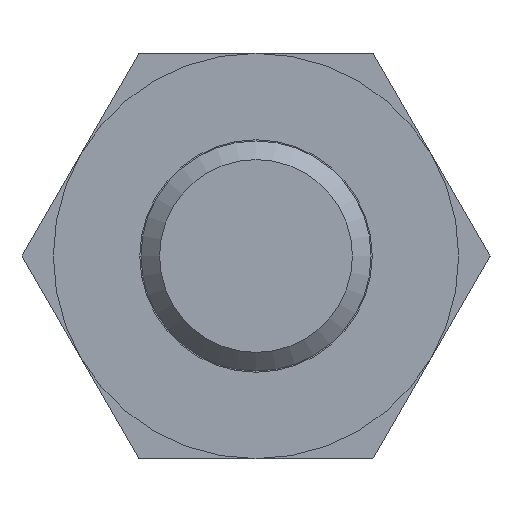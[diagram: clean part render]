
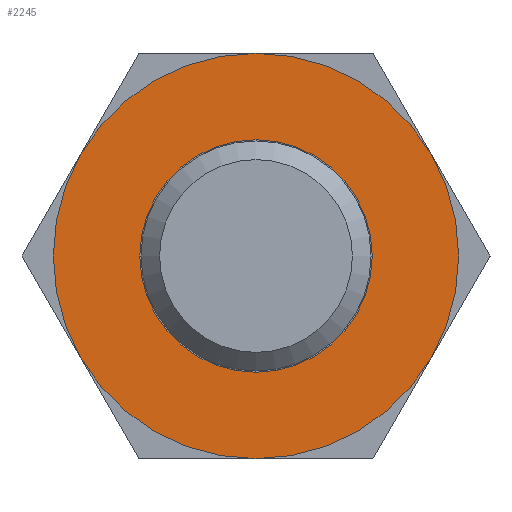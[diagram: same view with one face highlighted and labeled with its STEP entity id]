
A CAD part, left-side view. The second image highlights one B-rep face of the part: STEP entity #2245.
In plain terms, the highlighted planar face has unit normal (-1, 0, 0).
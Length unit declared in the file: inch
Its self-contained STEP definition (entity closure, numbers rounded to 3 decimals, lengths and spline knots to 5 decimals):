
#430=FACE_BOUND('',#839,.T.);
#612=FACE_OUTER_BOUND('',#838,.T.);
#838=EDGE_LOOP('',(#1815));
#839=EDGE_LOOP('',(#1816));
#1097=CIRCLE('',#2394,0.2495);
#1143=CIRCLE('',#2493,0.435);
#1215=VERTEX_POINT('',#3405);
#1273=VERTEX_POINT('',#3592);
#1421=EDGE_CURVE('',#1215,#1215,#1097,.T.);
#1497=EDGE_CURVE('',#1273,#1273,#1143,.T.);
#1815=ORIENTED_EDGE('',*,*,#1497,.F.);
#1816=ORIENTED_EDGE('',*,*,#1421,.T.);
#2171=PLANE('',#2494);
#2245=ADVANCED_FACE('',(#612,#430),#2171,.T.);
#2394=AXIS2_PLACEMENT_3D('',#3406,#2731,#2732);
#2493=AXIS2_PLACEMENT_3D('',#3593,#2959,#2960);
#2494=AXIS2_PLACEMENT_3D('',#3594,#2961,#2962);
#2731=DIRECTION('center_axis',(1.,0.,0.));
#2732=DIRECTION('ref_axis',(0.,1.,0.));
#2959=DIRECTION('center_axis',(1.,0.,0.));
#2960=DIRECTION('ref_axis',(0.,0.,
1.));
#2961=DIRECTION('center_axis',(-1.,0.,0.));
#2962=DIRECTION('ref_axis',(0.,0.,1.));
#3405=CARTESIAN_POINT('',(4.07518,0.97724,0.));
#3406=CARTESIAN_POINT('Origin',(4.07518,0.72774,0.));
#3592=CARTESIAN_POINT('',(4.07518,0.72774,0.435));
#3593=CARTESIAN_POINT('Origin',(4.07518,0.72774,0.));
#3594=CARTESIAN_POINT('Origin',(4.07518,0.72774,0.));
